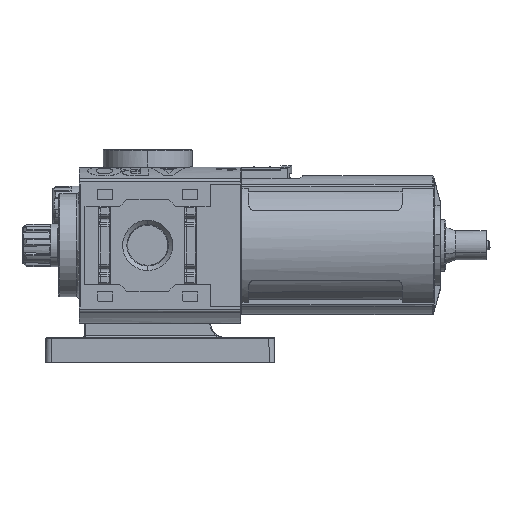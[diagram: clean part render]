
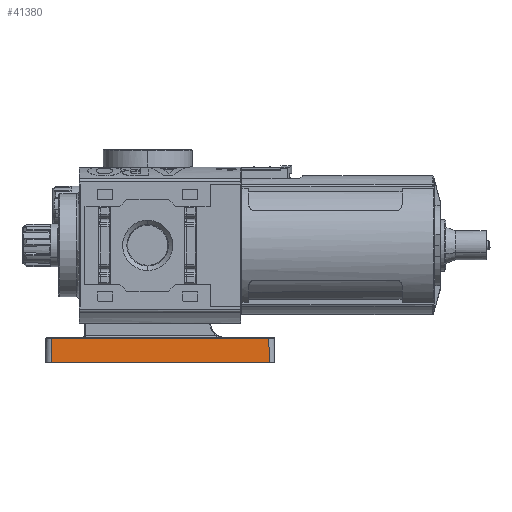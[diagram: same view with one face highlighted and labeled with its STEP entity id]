
A CAD part, left-side view. The second image highlights one B-rep face of the part: STEP entity #41380.
In plain terms, the highlighted planar face has unit normal (-1, 0, 0.018).
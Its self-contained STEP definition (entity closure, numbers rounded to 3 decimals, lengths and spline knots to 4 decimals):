
#38063=PLANE('',#125465);
#41380=ADVANCED_FACE('',(#47719),#38063,.T.);
#47719=FACE_OUTER_BOUND('',#52875,.T.);
#52875=EDGE_LOOP('',(#70517,#70518,#70519,#70520));
#58504=B_SPLINE_CURVE_WITH_KNOTS('',3,(#168995,#168996,#168997,#168998),
.UNSPECIFIED.,.F.,.F.,(4,4),(0.,1.),.UNSPECIFIED.);
#58507=B_SPLINE_CURVE_WITH_KNOTS('',3,(#169012,#169013,#169014,#169015),
.UNSPECIFIED.,.F.,.F.,(4,4),(0.,1.),.UNSPECIFIED.);
#70517=ORIENTED_EDGE('',*,*,#101323,.T.);
#70518=ORIENTED_EDGE('',*,*,#101395,.T.);
#70519=ORIENTED_EDGE('',*,*,#101398,.T.);
#70520=ORIENTED_EDGE('',*,*,#101399,.T.);
#91584=VERTEX_POINT('',#168026);
#91587=VERTEX_POINT('',#168076);
#91632=VERTEX_POINT('',#168999);
#91634=VERTEX_POINT('',#169011);
#101323=EDGE_CURVE('',#91587,#91584,#112460,.T.);
#101395=EDGE_CURVE('',#91584,#91632,#58504,.T.);
#101398=EDGE_CURVE('',#91632,#91634,#112478,.T.);
#101399=EDGE_CURVE('',#91634,#91587,#58507,.T.);
#112460=LINE('',#168078,#119009);
#112478=LINE('',#169010,#119027);
#119009=VECTOR('',#134288,1.);
#119027=VECTOR('',#134348,1.);
#125465=AXIS2_PLACEMENT_3D('',#169016,#134349,#134350);
#134288=DIRECTION('',(0.,1.,0.));
#134348=DIRECTION('',(0.,-1.,0.));
#134349=DIRECTION('',(-1.,0.,0.017));
#134350=DIRECTION('',(0.017,0.,1.));
#168026=CARTESIAN_POINT('',(-3.5632,2.6971,-1.3305));
#168076=CARTESIAN_POINT('',(-3.5632,-0.3742,-1.3305));
#168078=CARTESIAN_POINT('',(-3.5632,1.1614,-1.3305));
#168995=CARTESIAN_POINT('',(-3.5632,2.6971,-1.3305));
#168996=CARTESIAN_POINT('',(-3.5652,2.6991,-1.4447));
#168997=CARTESIAN_POINT('',(-3.5672,2.7011,-1.559));
#168998=CARTESIAN_POINT('',(-3.5692,2.703,-1.6732));
#168999=CARTESIAN_POINT('',(-3.5692,2.703,-1.6732));
#169010=CARTESIAN_POINT('',(-3.5692,1.1614,-1.6732));
#169011=CARTESIAN_POINT('',(-3.5692,-0.3802,-1.6732));
#169012=CARTESIAN_POINT('',(-3.5692,-0.3802,-1.6732));
#169013=CARTESIAN_POINT('',(-3.5672,-0.3782,-1.559));
#169014=CARTESIAN_POINT('',(-3.5652,-0.3762,-1.4447));
#169015=CARTESIAN_POINT('',(-3.5632,-0.3742,-1.3305));
#169016=CARTESIAN_POINT('',(-3.5692,-0.3987,-1.6732));
